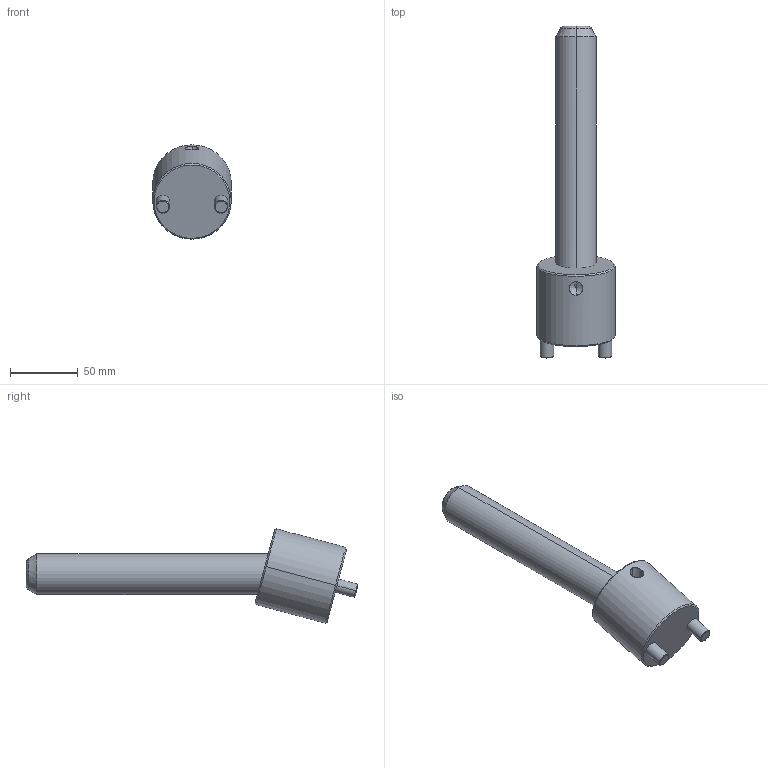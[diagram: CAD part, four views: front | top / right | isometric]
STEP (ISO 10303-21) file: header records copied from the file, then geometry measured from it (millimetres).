
FILE_DESCRIPTION(('CATIA V5 STEP Exchange'),'2;1');
FILE_NAME('C:\Users\Raffaele\Desktop\3D BOLEX\3D FILES CF BOLEX\19-INCLINED ASSEMBLY REF_CI\CI1530175.stp','2019-06-21T14:22:27+00:00',('none'),('none'),'CATIA Version 5 Release 20 GA (IN-10)','CATIA V5 STEP AP203','none');
FILE_SCHEMA(('CONFIG_CONTROL_DESIGN'));
Length unit declared in the file: millimetre
Products named in the file (1): CI1530175
Assembly tree (2 placements, depth 2):
  CI1530175
    #58
    #590
Bounding box: 58 x 245.33 x 69.74 mm (x, y, z)
Volume: 267390.7 mm3; surface area: 42572.8 mm2
Topology: 2 solids, 2 shells, 39 faces, 82 edges, 47 vertices
Faces by surface type: cone 14, cylinder 14, plane 7, torus 4
Entity records: 1548 total; most frequent: CARTESIAN_POINT 685, ORIENTED_EDGE 160, DIRECTION 147, EDGE_CURVE 80, AXIS2_PLACEMENT_3D 74, VERTEX_POINT 47, EDGE_LOOP 43, ADVANCED_FACE 39
